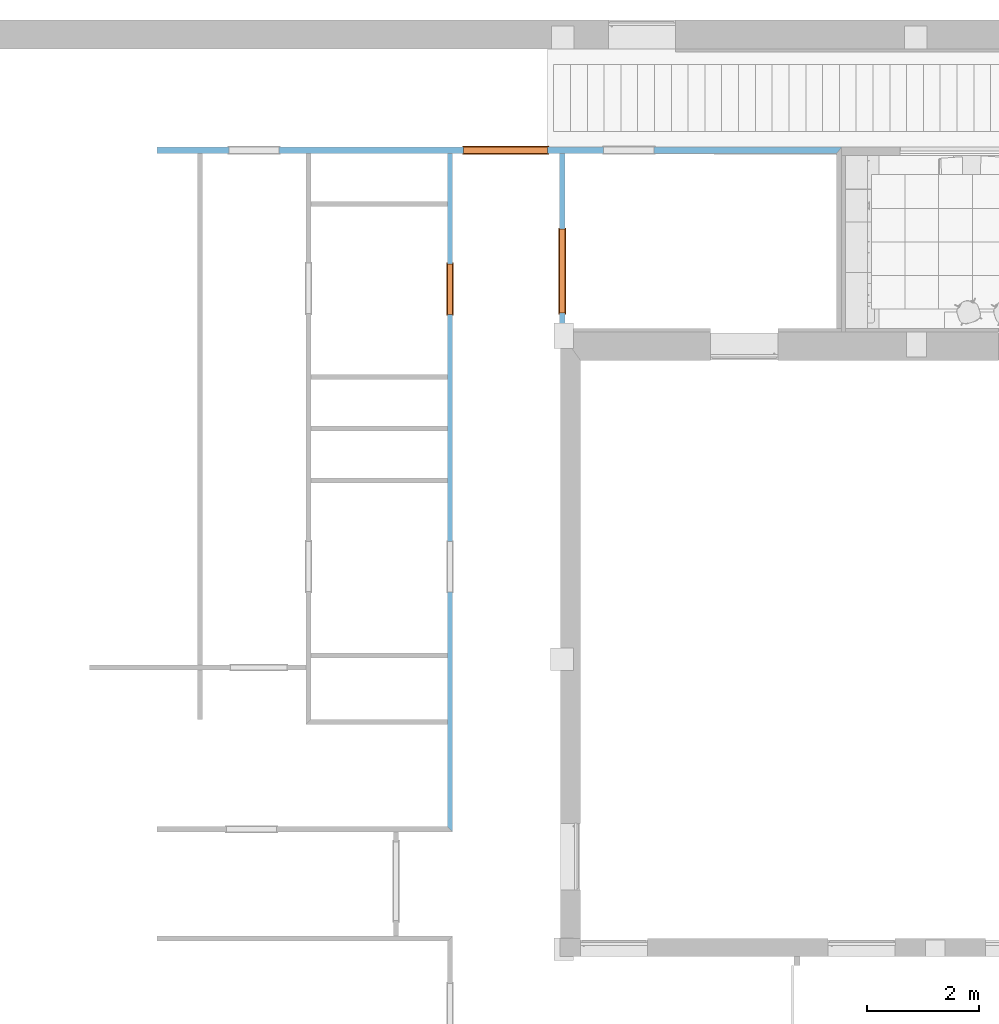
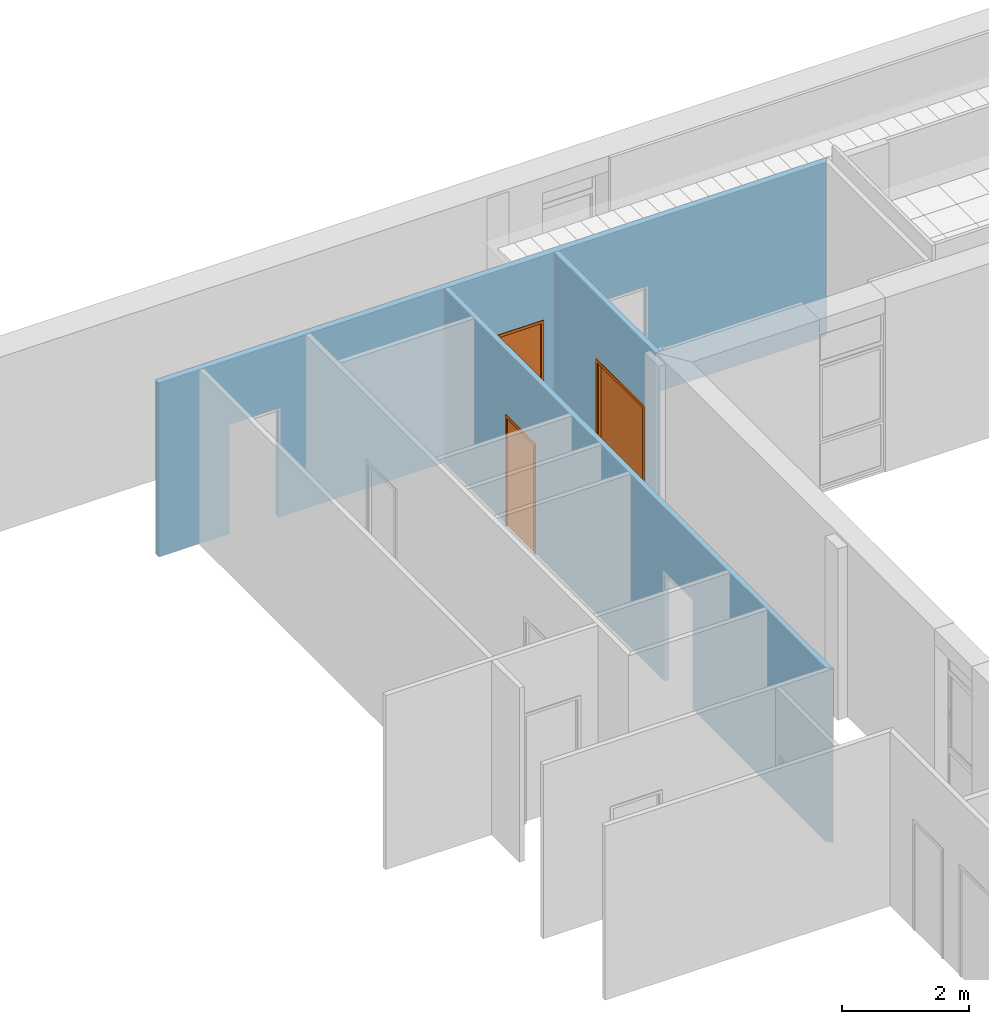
# One storey, part 48 of 60: 3 proxies, 6 openings, plus 3 elements that do not belong to this part.
"""IFC2X3 building model written with IfcOpenShell, lengths in millimetres."""

from ifc_helpers import new_model, entity, si_unit, converted_unit, derived_unit, money_unit, direction, frame, origin_with_axes, origin_2d_with_axis, place, context, subcontext, project, spatial, polyline, rectangle, outline, extrude, faceted_brep, material, layer, layer_set, layer_usage, type_object, element, fill, save


model = new_model("IFC2X3")

# Units and contexts
model_context = context("Model", 3, precision=0.01, world=origin_with_axes(), true_north=direction((0.0, 1.0)))
body_context = subcontext(model_context, "Body", "Model", "MODEL_VIEW")
ifc_project = project(units=[si_unit("LENGTHUNIT", "METRE", prefix="MILLI"), si_unit("AREAUNIT", "SQUARE_METRE"), si_unit("VOLUMEUNIT", "CUBIC_METRE"), converted_unit("PLANEANGLEUNIT", "DEGREE", entity("IfcPlaneAngleMeasure", 0.0174532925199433), si_unit("PLANEANGLEUNIT", "RADIAN"), dimensions=[0, 0, 0, 0, 0, 0, 0]), money_unit("USD"), converted_unit("TIMEUNIT", "Year", entity("IfcTimeMeasure", 31557600.0), si_unit("TIMEUNIT", "SECOND"), dimensions=[0, 0, 1, 0, 0, 0, 0]), si_unit("MASSUNIT", "GRAM", prefix="KILO"), si_unit("THERMODYNAMICTEMPERATUREUNIT", "DEGREE_CELSIUS"), si_unit("LUMINOUSINTENSITYUNIT", "LUMEN"), si_unit("ENERGYUNIT", "JOULE", prefix="MEGA"), derived_unit("THERMALCONDUCTANCEUNIT", [(si_unit("POWERUNIT", "WATT"), 1), (si_unit("LENGTHUNIT", "METRE"), -1), (si_unit("THERMODYNAMICTEMPERATUREUNIT", "KELVIN"), -1)]), derived_unit("SPECIFICHEATCAPACITYUNIT", [(si_unit("ENERGYUNIT", "JOULE"), 1), (si_unit("MASSUNIT", "GRAM", prefix="KILO"), -1), (si_unit("THERMODYNAMICTEMPERATUREUNIT", "KELVIN"), -1)]), derived_unit("MASSDENSITYUNIT", [(si_unit("MASSUNIT", "GRAM", prefix="KILO"), 1), (si_unit("VOLUMEUNIT", "CUBIC_METRE"), -1)])], contexts=[model_context])

# Site, building, storey
site_placement = place(None, origin_with_axes())
site = spatial("IfcSite", under=ifc_project, at=site_placement, Name="Sitio", CompositionType="ELEMENT")
building_placement = place(site_placement, origin_with_axes())
building = spatial("IfcBuilding", under=site, at=building_placement, Name="Construcción", CompositionType="ELEMENT")
storey_placement = place(building_placement, frame((0.0, 0.0, 3650.0), z_axis=(0.0, 0.0, 1.0), x_axis=(1.0, 0.0, 0.0)))
storey = spatial("IfcBuildingStorey", under=building, at=storey_placement, Name="PLANTA 2ª", CompositionType="ELEMENT", Elevation=3650.0)

# Wall, openings, proxy
ifc_material_1 = material(Name="ARQ_AM246_Arrebossat_De_Guix")
ifc_layer_1 = layer(ifc_material_1, 10.0, ventilated="UNKNOWN")
ifc_material_2 = material(Name="ARQ_CE217_Gero")
ifc_layer_2 = layer(ifc_material_2, 90.0, ventilated="UNKNOWN")
ifc_layer_3 = layer(ifc_material_1, 10.0, ventilated="UNKNOWN")
ifc_layer_set_1 = layer_set([ifc_layer_1, ifc_layer_2, ifc_layer_3], Name="CR Enva Totxana")
ifc_layer_usage_1 = layer_usage(ifc_layer_set_1, "AXIS2", "POSITIVE", -110.0)
wall_type_1 = type_object("IfcWallType", Name="CR Enva Totxana 110", PredefinedType="NOTDEFINED")
wall_1_placement = place(storey_placement, frame((-23028.41789761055, 1999.554870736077, 0.0), z_axis=(0.0, 0.0, 1.0), x_axis=(-1.0, 0.0, 0.0)))
wall_1 = element("IfcWallStandardCase", 1, at=wall_1_placement, inside=storey, type_object=wall_type_1, material=ifc_layer_usage_1, Name="MS-201", context=body_context, shape_type="SweptSolid", body=[
    extrude(outline(polyline([(0.0, -109.9999999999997), (12222.16708869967, -110.0000000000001), (12222.16708869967, 0.0), (89.99999999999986, 0.0), (0.0, -109.9999999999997)])), origin_with_axes(), (0.0, 0.0, 1.0), 3350.0),
])
opening_1_placement = place(wall_1_placement, frame((10490.1081784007, 0.0, 0.0), z_axis=(0.0, 0.0, 1.0), x_axis=(1.0, 0.0, 0.0)))
element("IfcOpeningElement", 2, at=opening_1_placement, cuts=wall_1, Name="PF-21D", context=body_context, shape_type="SweptSolid", body=[
    extrude(rectangle(XDim=900.0000000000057, YDim=2100.0, at=origin_2d_with_axis()), frame((0.0, -109.9999999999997, 1050.0), z_axis=(0.0, 1.0, 0.0), x_axis=(1.0, 0.0, 0.0)), (0.0, 0.0, 1.0), 329.9999999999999),
    extrude(rectangle(XDim=944.0000000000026, YDim=2122.0, at=origin_2d_with_axis()), frame((0.0, -110.0000000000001, 1061.0), z_axis=(0.0, 1.0, 0.0), x_axis=(1.0, 0.0, 0.0)), (0.0, 0.0, -1.0), 110.0),
    extrude(rectangle(XDim=944.0000000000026, YDim=2122.0, at=origin_2d_with_axis()), frame((0.0, 0.0, 1061.0), z_axis=(0.0, -1.0, 0.0), x_axis=(1.0, 0.0, 0.0)), (0.0, 0.0, -1.0), 110.0),
])
opening_2_placement = place(wall_1_placement, frame((3800.31908747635, 0.0, 0.0), z_axis=(0.0, 0.0, 1.0), x_axis=(1.0, 0.0, 0.0)))
element("IfcOpeningElement", 3, at=opening_2_placement, cuts=wall_1, Name="PF-18D", context=body_context, shape_type="SweptSolid", body=[
    extrude(rectangle(XDim=899.9999999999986, YDim=2100.0, at=origin_2d_with_axis()), frame((0.0, -109.9999999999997, 1050.0), z_axis=(0.0, 1.0, 0.0), x_axis=(1.0, 0.0, 0.0)), (0.0, 0.0, 1.0), 329.9999999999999),
    extrude(rectangle(XDim=944.0000000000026, YDim=2122.0, at=origin_2d_with_axis()), frame((0.0, -110.0000000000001, 1061.0), z_axis=(0.0, 1.0, 0.0), x_axis=(1.0, 0.0, 0.0)), (0.0, 0.0, -1.0), 110.0),
    extrude(rectangle(XDim=944.0000000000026, YDim=2122.0, at=origin_2d_with_axis()), frame((0.0, 0.0, 1061.0), z_axis=(0.0, -1.0, 0.0), x_axis=(1.0, 0.0, 0.0)), (0.0, 0.0, -1.0), 110.0),
])
opening_3_placement = place(wall_1_placement, frame((5998.982574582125, 0.0, 0.0), z_axis=(0.0, 0.0, 1.0), x_axis=(1.0, 0.0, 0.0)))
opening_3 = element("IfcOpeningElement", 4, at=opening_3_placement, cuts=wall_1, Name="PF-31D", context=body_context, shape_type="SweptSolid", body=[
    extrude(rectangle(XDim=1500.0, YDim=2100.0, at=origin_2d_with_axis()), frame((0.0, -110.0000000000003, 1050.0), z_axis=(0.0, 1.0, 0.0), x_axis=(1.0, 0.0, 0.0)), (0.0, 0.0, 1.0), 329.9999999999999),
    extrude(rectangle(XDim=1543.999999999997, YDim=2122.0, at=origin_2d_with_axis()), frame((0.0, -110.0000000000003, 1061.0), z_axis=(0.0, 1.0, 0.0), x_axis=(1.0, 0.0, 0.0)), (0.0, 0.0, -1.0), 110.0),
    extrude(rectangle(XDim=1543.999999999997, YDim=2122.0, at=origin_2d_with_axis()), frame((0.0, 0.0, 1061.0), z_axis=(0.0, -1.0, 0.0), x_axis=(1.0, 0.0, 0.0)), (0.0, 0.0, -1.0), 110.0),
])
building_element_proxy_type_1 = type_object("IfcBuildingElementProxyType", Name="Puerta Doble 27", PredefinedType="NOTDEFINED")
proxy_1_placement = place(opening_3_placement, frame((-750.0, 0.0, 0.0), z_axis=(0.0, 0.0, 1.0), x_axis=(1.0, 0.0, 0.0)))
proxy_1 = element("IfcBuildingElementProxy", 5, at=proxy_1_placement, inside=storey, type_object=building_element_proxy_type_1, Name="PF-31D", context=body_context, shape_type="Brep", body=[
    faceted_brep([(-21.99999999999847, -129.0000000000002, 0.0), (-21.99999999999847, -110.0000000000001, 0.0), (27.99999999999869, -110.0000000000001, 0.0), (27.99999999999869, -129.0000000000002, 0.0), (-21.99999999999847, -129.0000000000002, 2122.0), (-21.99999999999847, -110.0000000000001, 2122.0), (27.99999999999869, -110.0000000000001, 2072.0), (27.99999999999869, -129.0000000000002, 2072.0)], [[[0, 1, 2, 3]], [[4, 5, 1, 0]], [[1, 5, 6, 2]], [[3, 2, 6, 7]], [[0, 3, 7, 4]], [[7, 6, 5, 4]]]),
    faceted_brep([(1521.999999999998, -128.9999999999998, 2122.0), (1521.999999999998, -110.0000000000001, 2122.0), (1472.000000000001, -110.0000000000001, 2072.0), (1472.000000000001, -128.9999999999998, 2072.0), (1521.999999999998, -128.9999999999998, 0.0), (1521.999999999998, -109.9999999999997, 0.0), (1472.000000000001, -109.9999999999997, 0.0), (1472.000000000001, -128.9999999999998, 0.0)], [[[0, 1, 2, 3]], [[4, 5, 1, 0]], [[1, 5, 6, 2]], [[3, 2, 6, 7]], [[0, 3, 7, 4]], [[7, 6, 5, 4]]]),
    faceted_brep([(-21.99999999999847, -129.0000000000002, 2122.0), (-21.99999999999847, -110.0000000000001, 2122.0), (27.99999999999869, -110.0000000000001, 2072.0), (27.99999999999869, -129.0000000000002, 2072.0), (1521.999999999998, -128.9999999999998, 2122.0), (1521.999999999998, -110.0000000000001, 2122.0), (1472.000000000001, -110.0000000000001, 2072.0), (1472.000000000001, -128.9999999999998, 2072.0)], [[[0, 1, 2, 3]], [[4, 5, 1, 0]], [[1, 5, 6, 2]], [[3, 2, 6, 7]], [[0, 3, 7, 4]], [[7, 6, 5, 4]]]),
    faceted_brep([(-21.99999999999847, 18.99999999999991, 0.0), (27.99999999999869, 18.99999999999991, 0.0), (27.99999999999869, 0.0, 0.0), (-21.99999999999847, 0.0, 0.0), (-21.99999999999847, 18.99999999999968, 2122.0), (27.99999999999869, 18.99999999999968, 2072.0), (27.99999999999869, 0.0, 2072.0), (-21.99999999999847, 0.0, 2122.0)], [[[0, 1, 2, 3]], [[0, 4, 5, 1]], [[1, 5, 6, 2]], [[3, 2, 6, 7]], [[4, 0, 3, 7]], [[5, 4, 7, 6]]]),
    faceted_brep([(1521.999999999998, 18.99999999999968, 2122.0), (1472.000000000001, 18.99999999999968, 2072.0), (1472.000000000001, 0.0, 2072.0), (1521.999999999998, 0.0, 2122.0), (1521.999999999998, 18.99999999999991, 0.0), (1472.000000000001, 18.99999999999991, 0.0), (1472.000000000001, 0.0, 0.0), (1521.999999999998, 0.0, 0.0)], [[[0, 1, 2, 3]], [[0, 4, 5, 1]], [[1, 5, 6, 2]], [[3, 2, 6, 7]], [[4, 0, 3, 7]], [[5, 4, 7, 6]]]),
    faceted_brep([(-21.99999999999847, 18.99999999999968, 2122.0), (27.99999999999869, 18.99999999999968, 2072.0), (27.99999999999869, 0.0, 2072.0), (-21.99999999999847, 0.0, 2122.0), (1521.999999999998, 18.99999999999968, 2122.0), (1472.000000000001, 18.99999999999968, 2072.0), (1472.000000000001, 0.0, 2072.0), (1521.999999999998, 0.0, 2122.0)], [[[0, 1, 2, 3]], [[0, 4, 5, 1]], [[1, 5, 6, 2]], [[3, 2, 6, 7]], [[4, 0, 3, 7]], [[5, 4, 7, 6]]]),
    faceted_brep([(39.99999999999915, -40.00000000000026, 0.0), (39.99999999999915, -39.99999999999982, 2060.0), (39.99999999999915, -110.0000000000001, 2060.0), (39.99999999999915, -110.0000000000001, 0.0), (27.99999999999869, -39.99999999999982, 2060.0), (27.99999999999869, -40.00000000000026, 0.0), (27.99999999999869, 0.0, 2060.0), (0.0, 0.0, 2060.0), (0.0, -110.0000000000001, 2060.0), (0.0, -110.0000000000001, 0.0), (0.0, 0.0, 0.0), (27.99999999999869, 0.0, 0.0)], [[[0, 1, 2, 3]], [[4, 1, 0, 5]], [[4, 6, 7, 8, 2, 1]], [[3, 2, 8, 9]], [[5, 0, 3, 9, 10, 11]], [[6, 4, 5, 11]], [[6, 11, 10, 7]], [[10, 9, 8, 7]]]),
    faceted_brep([(1472.000000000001, -39.99999999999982, 2060.0), (1460.000000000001, -39.99999999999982, 2060.0), (1460.000000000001, -109.9999999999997, 2060.0), (1500.0, -109.9999999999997, 2060.0), (1500.0, 0.0, 2060.0), (1472.000000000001, 0.0, 2060.0), (1472.000000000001, -39.99999999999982, 0.0), (1460.000000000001, -39.99999999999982, 0.0), (1460.000000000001, -109.9999999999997, 0.0), (1500.0, -109.9999999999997, 0.0), (1500.0, 0.0, 0.0), (1472.000000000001, 0.0, 0.0)], [[[0, 1, 2, 3, 4, 5]], [[1, 0, 6, 7]], [[1, 7, 8, 2]], [[3, 2, 8, 9]], [[4, 3, 9, 10]], [[11, 5, 4, 10]], [[0, 5, 11, 6]], [[6, 11, 10, 9, 8, 7]]]),
    faceted_brep([(27.99999999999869, 0.0, 2072.0), (27.99999999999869, 0.0, 2060.0), (0.0, 0.0, 2060.0), (0.0, 0.0, 2100.0), (1500.0, 0.0, 2100.0), (1500.0, 0.0, 2060.0), (1472.000000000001, 0.0, 2060.0), (1472.000000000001, 0.0, 2072.0), (27.99999999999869, -39.99999999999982, 2072.0), (27.99999999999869, -39.99999999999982, 2060.0), (39.99999999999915, -39.99999999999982, 2060.0), (39.99999999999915, -110.0000000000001, 2060.0), (0.0, -110.0000000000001, 2060.0), (0.0, -110.0000000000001, 2100.0), (1500.0, -109.9999999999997, 2100.0), (1500.0, -109.9999999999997, 2060.0), (1472.000000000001, -39.99999999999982, 2060.0), (1460.000000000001, -109.9999999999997, 2060.0), (1460.000000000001, -39.99999999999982, 2060.0), (1472.000000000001, -39.99999999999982, 2072.0)], [[[0, 1, 2, 3, 4, 5, 6, 7]], [[1, 0, 8, 9]], [[9, 10, 11, 12, 2, 1]], [[2, 12, 13, 3]], [[3, 13, 14, 4]], [[4, 14, 15, 5]], [[16, 6, 5, 15, 17, 18]], [[7, 6, 16, 19]], [[0, 7, 19, 8]], [[16, 18, 10, 9, 8, 19]], [[10, 18, 17, 11]], [[17, 15, 14, 13, 12, 11]]]),
    faceted_brep([(1472.000000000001, 0.0, 0.0), (1472.000000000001, -39.99999999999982, 0.0), (750.0, -40.00000000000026, 0.0), (750.0, 0.0, 0.0), (1472.000000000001, 0.0, 2072.0), (1472.000000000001, -39.99999999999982, 2072.0), (750.0, -40.00000000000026, 2072.0), (750.0, 0.0, 2072.0)], [[[0, 1, 2, 3]], [[4, 5, 1, 0]], [[1, 5, 6, 2]], [[3, 2, 6, 7]], [[0, 3, 7, 4]], [[7, 6, 5, 4]]]),
    faceted_brep([(27.99999999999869, 0.0, 0.0), (750.0, 0.0, 0.0), (750.0, -40.00000000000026, 0.0), (27.99999999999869, -40.00000000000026, 0.0), (27.99999999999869, 0.0, 2072.0), (750.0, 0.0, 2072.0), (750.0, -40.00000000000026, 2072.0), (27.99999999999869, -40.00000000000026, 2072.0)], [[[0, 1, 2, 3]], [[0, 4, 5, 1]], [[1, 5, 6, 2]], [[3, 2, 6, 7]], [[4, 0, 3, 7]], [[5, 4, 7, 6]]]),
])
fill(opening_3, proxy_1)

# Wall, opening, proxy
ifc_layer_4 = layer(ifc_material_1, 10.0, ventilated="UNKNOWN")
ifc_layer_5 = layer(ifc_material_2, 70.0, ventilated="UNKNOWN")
ifc_layer_6 = layer(ifc_material_1, 10.0, ventilated="UNKNOWN")
ifc_layer_set_2 = layer_set([ifc_layer_4, ifc_layer_5, ifc_layer_6], Name="CR Enva Totxaneta")
ifc_layer_usage_2 = layer_usage(ifc_layer_set_2, "AXIS2", "POSITIVE", 0.0)
wall_type_2 = type_object("IfcWallType", Name="CR Enva Totxaneta 90", PredefinedType="NOTDEFINED")
wall_2_placement = place(storey_placement, frame((-27971.8071229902, -1193.97582371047, 0.0), z_axis=(0.0, 0.0, 1.0), x_axis=(0.0, 1.0, 0.0)))
wall_2 = element("IfcWallStandardCase", 6, at=wall_2_placement, inside=storey, type_object=wall_type_2, material=ifc_layer_usage_2, Name="MS-203", context=body_context, shape_type="SweptSolid", body=[
    extrude(outline(polyline([(0.0, 0.0), (3193.530694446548, 0.0), (3193.530694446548, 89.99999999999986), (0.0, 89.99999999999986), (0.0, 0.0)])), origin_with_axes(), (0.0, 0.0, 1.0), 3350.0),
])
opening_4_placement = place(wall_2_placement, frame((1089.369018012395, 0.0, 0.0), z_axis=(0.0, 0.0, 1.0), x_axis=(1.0, 0.0, 0.0)))
opening_4 = element("IfcOpeningElement", 7, at=opening_4_placement, cuts=wall_2, Name="PF-31D", context=body_context, shape_type="SweptSolid", body=[
    extrude(rectangle(XDim=1500.0, YDim=2100.0, at=origin_2d_with_axis()), frame((0.0, 89.99999999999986, 1050.0), z_axis=(0.0, 1.0, 0.0), x_axis=(1.0, 0.0, 0.0)), (0.0, 0.0, -1.0), 270.0),
    extrude(rectangle(XDim=1544.0, YDim=2122.0, at=origin_2d_with_axis()), frame((0.0, 89.99999999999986, 1061.0), z_axis=(0.0, 1.0, 0.0), x_axis=(1.0, 0.0, 0.0)), (0.0, 0.0, 1.0), 90.0),
    extrude(rectangle(XDim=1544.0, YDim=2122.0, at=origin_2d_with_axis()), frame((0.0, 0.0, 1061.0), z_axis=(0.0, -1.0, 0.0), x_axis=(1.0, 0.0, 0.0)), (0.0, 0.0, 1.0), 90.0),
])
proxy_2_placement = place(opening_4_placement, frame((750.0, 0.0, 0.0), z_axis=(0.0, 0.0, 1.0), x_axis=(-1.0, 0.0, 0.0)))
proxy_2 = element("IfcBuildingElementProxy", 8, at=proxy_2_placement, inside=storey, type_object=building_element_proxy_type_1, Name="PF-31D", context=body_context, shape_type="Brep", body=[
    faceted_brep([(1522.0, -109.0000000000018, 0.0), (1472.0, -109.0000000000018, 0.0), (1472.0, -89.99999999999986, 0.0), (1522.0, -89.99999999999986, 0.0), (1522.0, -109.0000000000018, 2122.0), (1472.0, -109.0000000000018, 2072.0), (1472.0, -89.99999999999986, 2072.0), (1522.0, -89.99999999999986, 2122.0)], [[[0, 1, 2, 3]], [[0, 4, 5, 1]], [[1, 5, 6, 2]], [[3, 2, 6, 7]], [[4, 0, 3, 7]], [[5, 4, 7, 6]]]),
    faceted_brep([(-22.00000000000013, -109.0000000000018, 2122.0), (27.99999999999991, -109.0000000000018, 2072.0), (27.99999999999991, -89.99999999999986, 2072.0), (-22.00000000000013, -89.99999999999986, 2122.0), (-22.00000000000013, -108.9999999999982, 0.0), (27.99999999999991, -108.9999999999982, 0.0), (27.99999999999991, -89.99999999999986, 0.0), (-22.00000000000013, -89.99999999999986, 0.0)], [[[0, 1, 2, 3]], [[0, 4, 5, 1]], [[1, 5, 6, 2]], [[3, 2, 6, 7]], [[4, 0, 3, 7]], [[5, 4, 7, 6]]]),
    faceted_brep([(1522.0, -109.0000000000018, 2122.0), (1472.0, -109.0000000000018, 2072.0), (1472.0, -89.99999999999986, 2072.0), (1522.0, -89.99999999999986, 2122.0), (-22.00000000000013, -109.0000000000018, 2122.0), (27.99999999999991, -109.0000000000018, 2072.0), (27.99999999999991, -89.99999999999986, 2072.0), (-22.00000000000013, -89.99999999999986, 2122.0)], [[[0, 1, 2, 3]], [[0, 4, 5, 1]], [[1, 5, 6, 2]], [[3, 2, 6, 7]], [[4, 0, 3, 7]], [[5, 4, 7, 6]]]),
    faceted_brep([(1522.0, 18.99999999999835, 0.0), (1522.0, 0.0, 0.0), (1472.0, 0.0, 0.0), (1472.0, 18.99999999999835, 0.0), (1522.0, 18.99999999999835, 2122.0), (1522.0, 0.0, 2122.0), (1472.0, 0.0, 2072.0), (1472.0, 18.99999999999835, 2072.0)], [[[0, 1, 2, 3]], [[4, 5, 1, 0]], [[1, 5, 6, 2]], [[3, 2, 6, 7]], [[0, 3, 7, 4]], [[7, 6, 5, 4]]]),
    faceted_brep([(-22.00000000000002, 18.99999999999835, 2122.0), (-22.00000000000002, 0.0, 2122.0), (28.00000000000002, 0.0, 2072.0), (28.00000000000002, 18.99999999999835, 2072.0), (-22.00000000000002, 19.0000000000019, 0.0), (-22.00000000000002, 0.0, 0.0), (28.00000000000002, 0.0, 0.0), (28.00000000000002, 19.0000000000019, 0.0)], [[[0, 1, 2, 3]], [[4, 5, 1, 0]], [[1, 5, 6, 2]], [[3, 2, 6, 7]], [[0, 3, 7, 4]], [[7, 6, 5, 4]]]),
    faceted_brep([(1522.0, 18.99999999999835, 2122.0), (1522.0, 0.0, 2122.0), (1472.0, 0.0, 2072.0), (1472.0, 18.99999999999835, 2072.0), (-22.00000000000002, 18.99999999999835, 2122.0), (-22.00000000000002, 0.0, 2122.0), (28.00000000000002, 0.0, 2072.0), (28.00000000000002, 18.99999999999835, 2072.0)], [[[0, 1, 2, 3]], [[4, 5, 1, 0]], [[1, 5, 6, 2]], [[3, 2, 6, 7]], [[0, 3, 7, 4]], [[7, 6, 5, 4]]]),
    faceted_brep([(1460.0, -39.99999999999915, 0.0), (1460.0, -89.99999999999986, 0.0), (1460.0, -89.99999999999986, 2060.0), (1460.0, -39.99999999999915, 2060.0), (1472.0, -39.99999999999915, 0.0), (1472.0, 0.0, 0.0), (1500.0, 0.0, 0.0), (1500.0, -89.99999999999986, 0.0), (1500.0, -89.99999999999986, 2060.0), (1472.0, -39.99999999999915, 2060.0), (1500.0, 0.0, 2060.0), (1472.0, 0.0, 2060.0)], [[[0, 1, 2, 3]], [[4, 5, 6, 7, 1, 0]], [[1, 7, 8, 2]], [[9, 3, 2, 8, 10, 11]], [[9, 4, 0, 3]], [[11, 5, 4, 9]], [[11, 10, 6, 5]], [[6, 10, 8, 7]]]),
    faceted_brep([(27.99999999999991, -39.99999999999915, 2060.0), (28.00000000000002, 0.0, 2060.0), (0.0, 0.0, 2060.0), (0.0, -89.99999999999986, 2060.0), (39.99999999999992, -89.99999999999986, 2060.0), (39.99999999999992, -39.99999999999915, 2060.0), (27.99999999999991, -39.99999999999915, 0.0), (28.00000000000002, 0.0, 0.0), (0.0, 0.0, 0.0), (0.0, -89.99999999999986, 0.0), (39.99999999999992, -89.99999999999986, 0.0), (39.99999999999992, -39.99999999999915, 0.0)], [[[0, 1, 2, 3, 4, 5]], [[0, 6, 7, 1]], [[7, 8, 2, 1]], [[2, 8, 9, 3]], [[3, 9, 10, 4]], [[5, 4, 10, 11]], [[5, 11, 6, 0]], [[6, 11, 10, 9, 8, 7]]]),
    faceted_brep([(1472.0, 0.0, 2072.0), (28.00000000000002, 0.0, 2072.0), (28.00000000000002, 0.0, 2060.0), (0.0, 0.0, 2060.0), (0.0, 0.0, 2100.0), (1500.0, 0.0, 2100.0), (1500.0, 0.0, 2060.0), (1472.0, 0.0, 2060.0), (1472.0, -39.99999999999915, 2072.0), (27.99999999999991, -39.99999999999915, 2072.0), (27.99999999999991, -39.99999999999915, 2060.0), (39.99999999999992, -39.99999999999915, 2060.0), (39.99999999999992, -89.99999999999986, 2060.0), (0.0, -89.99999999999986, 2060.0), (0.0, -89.99999999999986, 2100.0), (1500.0, -89.99999999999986, 2100.0), (1500.0, -89.99999999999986, 2060.0), (1472.0, -39.99999999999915, 2060.0), (1460.0, -89.99999999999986, 2060.0), (1460.0, -39.99999999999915, 2060.0)], [[[0, 1, 2, 3, 4, 5, 6, 7]], [[0, 8, 9, 1]], [[1, 9, 10, 2]], [[10, 11, 12, 13, 3, 2]], [[4, 3, 13, 14]], [[5, 4, 14, 15]], [[6, 5, 15, 16]], [[17, 7, 6, 16, 18, 19]], [[7, 17, 8, 0]], [[10, 9, 8, 17, 19, 11]], [[19, 18, 12, 11]], [[12, 18, 16, 15, 14, 13]]]),
    faceted_brep([(28.00000000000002, 0.0, 0.0), (750.0, 0.0, 0.0), (749.9999999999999, -39.99999999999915, 0.0), (27.99999999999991, -39.99999999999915, 0.0), (28.00000000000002, 0.0, 2072.0), (750.0, 0.0, 2072.0), (749.9999999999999, -39.99999999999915, 2072.0), (27.99999999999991, -39.99999999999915, 2072.0)], [[[0, 1, 2, 3]], [[0, 4, 5, 1]], [[1, 5, 6, 2]], [[3, 2, 6, 7]], [[4, 0, 3, 7]], [[5, 4, 7, 6]]]),
    faceted_brep([(1472.0, 0.0, 0.0), (1472.0, -39.99999999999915, 0.0), (749.9999999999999, -39.99999999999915, 0.0), (750.0, 0.0, 0.0), (1472.0, 0.0, 2072.0), (1472.0, -39.99999999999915, 2072.0), (749.9999999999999, -39.99999999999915, 2072.0), (750.0, 0.0, 2072.0)], [[[0, 1, 2, 3]], [[4, 5, 1, 0]], [[1, 5, 6, 2]], [[3, 2, 6, 7]], [[0, 3, 7, 4]], [[7, 6, 5, 4]]]),
])
fill(opening_4, proxy_2)

# Wall, openings, proxy
ifc_layer_usage_3 = layer_usage(ifc_layer_set_2, "AXIS2", "POSITIVE", 0.0)
wall_3_placement = place(storey_placement, frame((-29972.67583112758, -10020.40756299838, 0.0), z_axis=(0.0, 0.0, 1.0), x_axis=(0.0, 1.0, 0.0)))
wall_3 = element("IfcWallStandardCase", 9, at=wall_3_placement, inside=storey, type_object=wall_type_2, material=ifc_layer_usage_3, Name="MS-203", context=body_context, shape_type="SweptSolid", body=[
    extrude(outline(polyline([(-89.99999999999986, 0.0), (12019.96243373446, 0.0), (12019.96243373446, 89.99999999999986), (0.0, 89.99999999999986), (-89.99999999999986, 0.0)])), origin_with_axes(), (0.0, 0.0, 1.0), 3350.0),
])
opening_5_placement = place(wall_3_placement, frame((9595.054136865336, 0.0, 0.0), z_axis=(0.0, 0.0, 1.0), x_axis=(1.0, 0.0, 0.0)))
opening_5 = element("IfcOpeningElement", 10, at=opening_5_placement, cuts=wall_3, Name="PF-19D", context=body_context, shape_type="SweptSolid", body=[
    extrude(rectangle(XDim=900.0, YDim=2100.0, at=origin_2d_with_axis()), frame((0.0, 89.99999999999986, 1050.0), z_axis=(0.0, 1.0, 0.0), x_axis=(-1.0, 0.0, 0.0)), (0.0, 0.0, -1.0), 270.0),
    extrude(rectangle(XDim=944.0000000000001, YDim=2122.0, at=origin_2d_with_axis()), frame((0.0, 90.00000000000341, 1061.0), z_axis=(0.0, 1.0, 0.0), x_axis=(-1.0, 0.0, 0.0)), (0.0, 0.0, 1.0), 90.0),
    extrude(rectangle(XDim=944.0000000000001, YDim=2122.0, at=origin_2d_with_axis()), frame((0.0, 0.0, 1061.0), z_axis=(0.0, -1.0, 0.0), x_axis=(-1.0, 0.0, 0.0)), (0.0, 0.0, 1.0), 90.0),
])
opening_6_placement = place(wall_3_placement, frame((4639.248651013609, 0.0, 0.0), z_axis=(0.0, 0.0, 1.0), x_axis=(1.0, 0.0, 0.0)))
element("IfcOpeningElement", 11, at=opening_6_placement, cuts=wall_3, Name="PF-23D", context=body_context, shape_type="SweptSolid", body=[
    extrude(rectangle(XDim=900.0000000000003, YDim=2100.0, at=origin_2d_with_axis()), frame((0.0, -89.99999999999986, 1050.0), z_axis=(0.0, 1.0, 0.0), x_axis=(1.0, 0.0, 0.0)), (0.0, 0.0, 1.0), 270.0),
    extrude(rectangle(XDim=944.0000000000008, YDim=2122.0, at=origin_2d_with_axis()), frame((0.0, 0.0, 1061.0), z_axis=(0.0, 1.0, 0.0), x_axis=(1.0, 0.0, 0.0)), (0.0, 0.0, -1.0), 90.0),
    extrude(rectangle(XDim=944.0000000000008, YDim=2122.0, at=origin_2d_with_axis()), frame((0.0, 89.99999999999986, 1061.0), z_axis=(0.0, -1.0, 0.0), x_axis=(1.0, 0.0, 0.0)), (0.0, 0.0, -1.0), 90.0),
])
building_element_proxy_type_2 = type_object("IfcBuildingElementProxyType", Name="Puerta 27", PredefinedType="NOTDEFINED")
proxy_3_placement = place(opening_5_placement, frame((-449.9999999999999, 0.0, 0.0), z_axis=(0.0, 0.0, 1.0), x_axis=(1.0, 0.0, 0.0)))
proxy_3 = element("IfcBuildingElementProxy", 12, at=proxy_3_placement, inside=storey, type_object=building_element_proxy_type_2, Name="PF-19D", context=body_context, shape_type="Brep", body=[
    faceted_brep([(921.9999999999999, 109.0000000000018, 0.0), (921.9999999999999, 90.00000000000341, 0.0), (872.0, 90.00000000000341, 0.0), (872.0, 109.0000000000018, 0.0), (921.9999999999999, 109.0000000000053, 2122.0), (921.9999999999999, 90.00000000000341, 2122.0), (872.0, 90.00000000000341, 2072.0), (872.0, 109.0000000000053, 2072.0)], [[[0, 1, 2, 3]], [[4, 5, 1, 0]], [[1, 5, 6, 2]], [[3, 2, 6, 7]], [[0, 3, 7, 4]], [[7, 6, 5, 4]]]),
    faceted_brep([(-22.00000000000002, 109.0000000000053, 2122.0), (-22.00000000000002, 90.00000000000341, 2122.0), (27.99999999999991, 90.00000000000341, 2072.0), (27.99999999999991, 109.0000000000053, 2072.0), (-22.00000000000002, 109.0000000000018, 0.0), (-22.00000000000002, 90.00000000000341, 0.0), (27.99999999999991, 90.00000000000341, 0.0), (27.99999999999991, 109.0000000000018, 0.0)], [[[0, 1, 2, 3]], [[4, 5, 1, 0]], [[1, 5, 6, 2]], [[3, 2, 6, 7]], [[0, 3, 7, 4]], [[7, 6, 5, 4]]]),
    faceted_brep([(921.9999999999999, 109.0000000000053, 2122.0), (921.9999999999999, 90.00000000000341, 2122.0), (872.0, 90.00000000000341, 2072.0), (872.0, 109.0000000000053, 2072.0), (-22.00000000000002, 109.0000000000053, 2122.0), (-22.00000000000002, 90.00000000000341, 2122.0), (27.99999999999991, 90.00000000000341, 2072.0), (27.99999999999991, 109.0000000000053, 2072.0)], [[[0, 1, 2, 3]], [[4, 5, 1, 0]], [[1, 5, 6, 2]], [[3, 2, 6, 7]], [[0, 3, 7, 4]], [[7, 6, 5, 4]]]),
    faceted_brep([(922.0, -18.99999999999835, 0.0), (872.0, -18.99999999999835, 0.0), (872.0, 0.0, 0.0), (922.0, 0.0, 0.0), (922.0, -18.9999999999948, 2122.0), (872.0, -18.9999999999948, 2072.0), (872.0, 0.0, 2072.0), (922.0, 0.0, 2122.0)], [[[0, 1, 2, 3]], [[0, 4, 5, 1]], [[1, 5, 6, 2]], [[3, 2, 6, 7]], [[4, 0, 3, 7]], [[5, 4, 7, 6]]]),
    faceted_brep([(-22.00000000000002, -18.9999999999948, 2122.0), (27.99999999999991, -18.9999999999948, 2072.0), (27.99999999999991, 0.0, 2072.0), (-22.00000000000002, 0.0, 2122.0), (-22.00000000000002, -18.9999999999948, 0.0), (27.99999999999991, -18.9999999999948, 0.0), (27.99999999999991, 0.0, 0.0), (-22.00000000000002, 0.0, 0.0)], [[[0, 1, 2, 3]], [[0, 4, 5, 1]], [[1, 5, 6, 2]], [[3, 2, 6, 7]], [[4, 0, 3, 7]], [[5, 4, 7, 6]]]),
    faceted_brep([(922.0, -18.9999999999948, 2122.0), (872.0, -18.9999999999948, 2072.0), (872.0, 0.0, 2072.0), (922.0, 0.0, 2122.0), (-22.00000000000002, -18.9999999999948, 2122.0), (28.00000000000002, -18.9999999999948, 2072.0), (28.00000000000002, 0.0, 2072.0), (-22.00000000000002, 0.0, 2122.0)], [[[0, 1, 2, 3]], [[0, 4, 5, 1]], [[1, 5, 6, 2]], [[3, 2, 6, 7]], [[4, 0, 3, 7]], [[5, 4, 7, 6]]]),
    faceted_brep([(859.9999999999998, 50.00000000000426, 0.0), (860.0, 0.0, 0.0), (860.0, 0.0, 2060.0), (860.0, 50.00000000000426, 2060.0), (872.0, 50.00000000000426, 0.0), (872.0, 90.00000000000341, 0.0), (899.9999999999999, 90.00000000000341, 0.0), (899.9999999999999, 0.0, 0.0), (899.9999999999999, 0.0, 2060.0), (872.0, 50.00000000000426, 2060.0), (899.9999999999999, 90.00000000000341, 2060.0), (872.0, 90.00000000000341, 2060.0)], [[[0, 1, 2, 3]], [[4, 5, 6, 7, 1, 0]], [[1, 7, 8, 2]], [[9, 3, 2, 8, 10, 11]], [[9, 4, 0, 3]], [[11, 5, 4, 9]], [[11, 10, 6, 5]], [[6, 10, 8, 7]]]),
    faceted_brep([(27.99999999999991, 50.00000000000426, 2060.0), (27.99999999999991, 90.00000000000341, 2060.0), (0.0, 90.00000000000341, 2060.0), (0.0, 0.0, 2060.0), (39.99999999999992, 0.0, 2060.0), (39.99999999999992, 50.00000000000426, 2060.0), (27.99999999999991, 50.00000000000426, 0.0), (27.99999999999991, 90.00000000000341, 0.0), (0.0, 90.00000000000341, 0.0), (0.0, 0.0, 0.0), (39.99999999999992, 0.0, 0.0), (39.99999999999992, 50.00000000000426, 0.0)], [[[0, 1, 2, 3, 4, 5]], [[0, 6, 7, 1]], [[7, 8, 2, 1]], [[2, 8, 9, 3]], [[3, 9, 10, 4]], [[5, 4, 10, 11]], [[5, 11, 6, 0]], [[6, 11, 10, 9, 8, 7]]]),
    faceted_brep([(872.0, 90.00000000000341, 2072.0), (27.99999999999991, 90.00000000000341, 2072.0), (27.99999999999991, 90.00000000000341, 2060.0), (0.0, 90.00000000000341, 2060.0), (0.0, 90.00000000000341, 2100.0), (899.9999999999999, 90.00000000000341, 2100.0), (899.9999999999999, 90.00000000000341, 2060.0), (872.0, 90.00000000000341, 2060.0), (872.0, 50.00000000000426, 2072.0), (27.99999999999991, 50.00000000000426, 2072.0), (27.99999999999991, 50.00000000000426, 2060.0), (39.99999999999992, 50.00000000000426, 2060.0), (39.99999999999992, 0.0, 2060.0), (0.0, 0.0, 2060.0), (0.0, 0.0, 2100.0), (900.0, 0.0, 2100.0), (900.0, 0.0, 2060.0), (872.0, 50.00000000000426, 2060.0), (860.0, 0.0, 2060.0), (860.0, 50.00000000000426, 2060.0)], [[[0, 1, 2, 3, 4, 5, 6, 7]], [[0, 8, 9, 1]], [[1, 9, 10, 2]], [[10, 11, 12, 13, 3, 2]], [[4, 3, 13, 14]], [[5, 4, 14, 15]], [[6, 5, 15, 16]], [[17, 7, 6, 16, 18, 19]], [[7, 17, 8, 0]], [[10, 9, 8, 17, 19, 11]], [[19, 18, 12, 11]], [[12, 18, 16, 15, 14, 13]]]),
    faceted_brep([(28.00000000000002, 90.00000000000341, 0.0), (872.0, 90.00000000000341, 0.0), (872.0, 50.00000000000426, 0.0), (28.00000000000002, 50.00000000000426, 0.0), (28.00000000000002, 90.00000000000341, 2072.0), (872.0, 90.00000000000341, 2072.0), (872.0, 50.00000000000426, 2072.0), (28.00000000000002, 50.00000000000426, 2072.0)], [[[0, 1, 2, 3]], [[0, 4, 5, 1]], [[1, 5, 6, 2]], [[3, 2, 6, 7]], [[4, 0, 3, 7]], [[5, 4, 7, 6]]]),
])
fill(opening_5, proxy_3)

save(model, "model.ifc")
